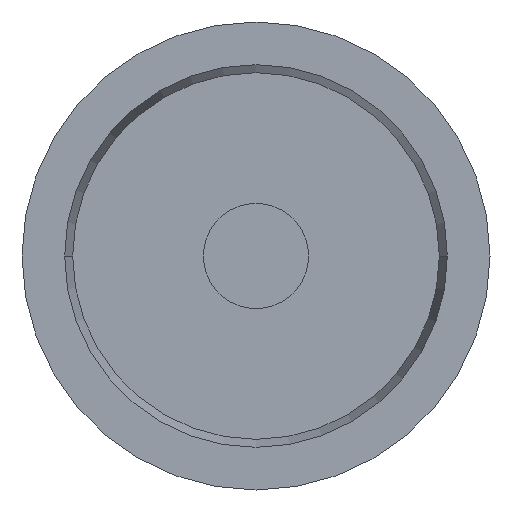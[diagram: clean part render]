
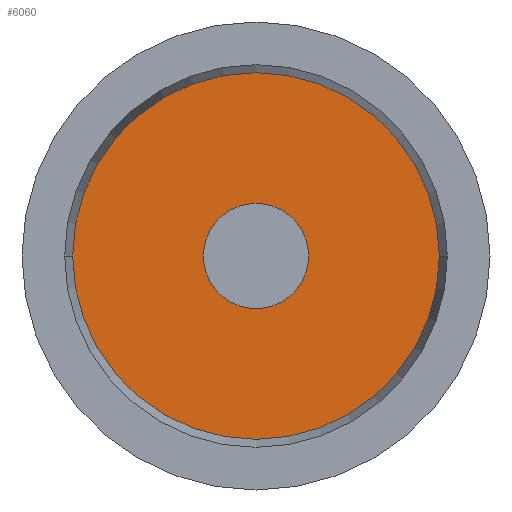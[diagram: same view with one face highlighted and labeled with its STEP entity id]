
A CAD part, left-side view. The second image highlights one B-rep face of the part: STEP entity #6060.
In plain terms, the highlighted planar face has unit normal (-1, 0, 0).
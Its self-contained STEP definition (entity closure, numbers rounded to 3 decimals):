
#1750=CARTESIAN_POINT('',(0.,-0.445,0.));
#1760=VERTEX_POINT('',#1750);
#1920=CARTESIAN_POINT('',(0.,0.444,0.));
#1930=VERTEX_POINT('',#1920);
#1960=CARTESIAN_POINT('',(0.,0.,0.
));
#1970=DIRECTION('',(-1.,0.,0.));
#1980=DIRECTION('',(0.,1.,0.));
#1990=AXIS2_PLACEMENT_3D('',#1960,#1970,#1980);
#2000=CIRCLE('',#1990,0.445);
#2010=CARTESIAN_POINT('',(0.,0.,0.445));
#2020=VERTEX_POINT('',#2010);
#2030=EDGE_CURVE('',#2020,#1930,#2000,.T.);
#2050=EDGE_CURVE('',#1760,#2020,#2000,.T.);
#5330=CARTESIAN_POINT('',(0.,-1.549,0.));
#5340=VERTEX_POINT('',#5330);
#5370=CARTESIAN_POINT('',(0.,0.,0.)
);
#5380=DIRECTION('',(1.,-0.,-0.));
#5390=DIRECTION('',(0.,1.,0.));
#5400=AXIS2_PLACEMENT_3D('',#5370,#5380,#5390);
#5410=CIRCLE('',#5400,1.549);
#5420=CARTESIAN_POINT('',(0.,1.549,0.));
#5430=VERTEX_POINT('',#5420);
#5440=EDGE_CURVE('',#5430,#5340,#5410,.T.);
#5860=CARTESIAN_POINT('',(0.,-1.568,1.568));
#5870=DIRECTION('',(1.,0.,0.));
#5880=DIRECTION('',(0.,-1.,0.));
#5890=AXIS2_PLACEMENT_3D('',#5860,#5870,#5880);
#5900=PLANE('',#5890);
#5910=CARTESIAN_POINT('',(0.,0.,
-1.549));
#5920=VERTEX_POINT('',#5910);
#5930=EDGE_CURVE('',#5920,#5430,#5410,.T.);
#5940=ORIENTED_EDGE('',*,*,#5930,.F.);
#5950=ORIENTED_EDGE('',*,*,#5440,.F.);
#5960=EDGE_CURVE('',#5340,#5920,#5410,.T.);
#5970=ORIENTED_EDGE('',*,*,#5960,.F.);
#5980=EDGE_LOOP('',(#5970,#5950,#5940));
#5990=FACE_OUTER_BOUND('',#5980,.T.);
#6000=ORIENTED_EDGE('',*,*,#2030,.F.);
#6010=EDGE_CURVE('',#1930,#1760,#2000,.T.);
#6020=ORIENTED_EDGE('',*,*,#6010,.F.);
#6030=ORIENTED_EDGE('',*,*,#2050,.F.);
#6040=EDGE_LOOP('',(#6030,#6020,#6000));
#6050=FACE_BOUND('',#6040,.T.);
#6060=ADVANCED_FACE('',(#5990,#6050),#5900,.F.);
